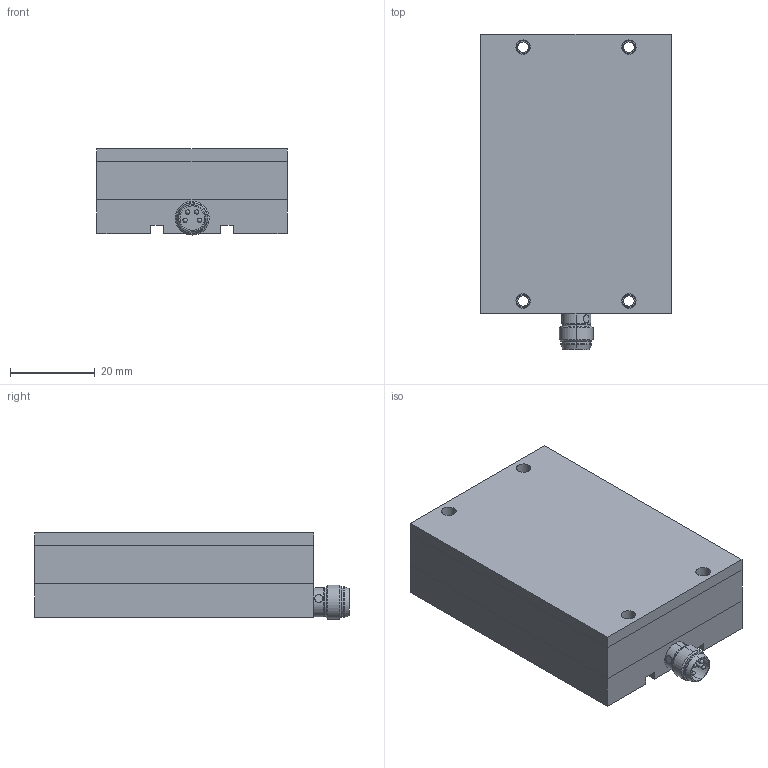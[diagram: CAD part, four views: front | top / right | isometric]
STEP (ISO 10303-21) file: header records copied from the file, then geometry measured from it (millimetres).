
FILE_DESCRIPTION(('STEP AP214'),'1');
FILE_NAME('PICCO_MD flach Kundenzeichnung.stp','2017-07-05T15:14:24',(' '),(' '),'Spatial InterOp 3D',' ',' ');
FILE_SCHEMA(('AUTOMOTIVE_DESIGN { 1 0 10303 214 1 1 1 1 }'));
Length unit declared in the file: metre
Products named in the file (4): PICCO_MD flach Kundenzeichnung; Grundkörper; Zwischenstück; Front
Assembly tree (3 placements, depth 2):
  PICCO_MD flach Kundenzeichnung
    Grundkörper
    Zwischenstück
    Front
Bounding box: 45 x 74.46 x 20.37 mm (x, y, z)
Volume: 55411.1 mm3; surface area: 26300.4 mm2
Topology: 4 solids, 16 shells, 245 faces, 635 edges, 428 vertices
Faces by surface type: cylinder 140, plane 77, cone 12, bspline 8, torus 4, sphere 4
Entity records: 10427 total; most frequent: CARTESIAN_POINT 2212, DIRECTION 1341, ORIENTED_EDGE 1202, EDGE_CURVE 625, AXIS2_PLACEMENT_3D 551, VERTEX_POINT 428, CIRCLE 307, EDGE_LOOP 301
